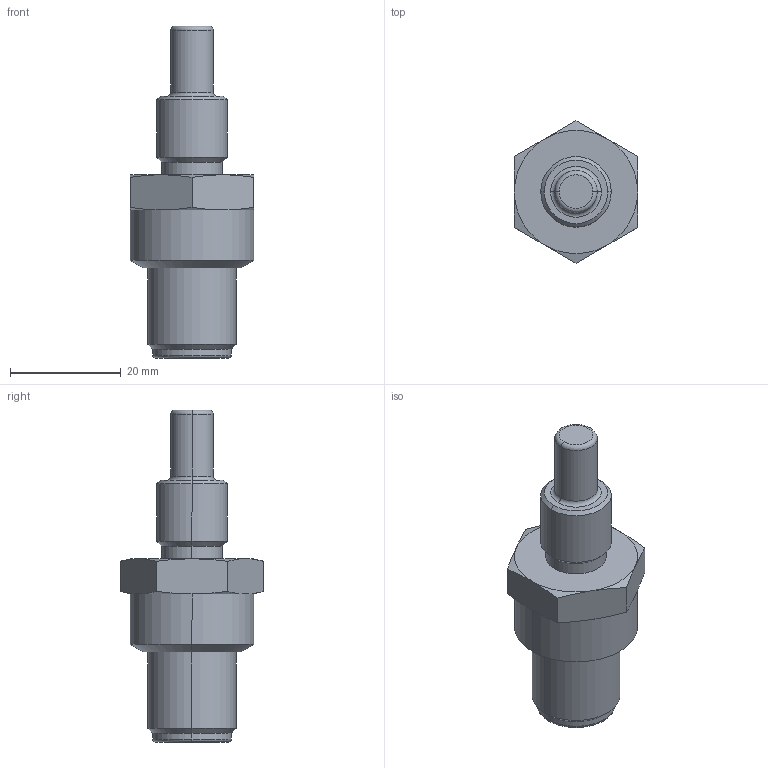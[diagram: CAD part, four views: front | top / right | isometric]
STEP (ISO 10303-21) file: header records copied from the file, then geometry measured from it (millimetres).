
FILE_DESCRIPTION (( 'STEP AP214' ), '1' );
FILE_NAME ('T8B-TYPE.STEP', '2008-01-14T13:24:36', ( 'Authorized User' ), ( 'Precision Sensors' ), 'SwSTEP 2.0', 'SolidWorks 2006303', '' );
FILE_SCHEMA (( 'AUTOMOTIVE_DESIGN' ));
Length unit declared in the file: inch
Products named in the file (1): T8B-TYPE
Bounding box: 22.23 x 25.66 x 59.82 mm (x, y, z)
Volume: 10506.9 mm3; surface area: 4143.5 mm2
Topology: 1 solids, 1 shells, 52 faces, 106 edges, 60 vertices
Faces by surface type: cone 20, cylinder 14, plane 12, torus 6
Entity records: 1447 total; most frequent: CARTESIAN_POINT 339, DIRECTION 242, ORIENTED_EDGE 212, AXIS2_PLACEMENT_3D 107, EDGE_CURVE 106, VERTEX_POINT 60, EDGE_LOOP 56, CIRCLE 54
